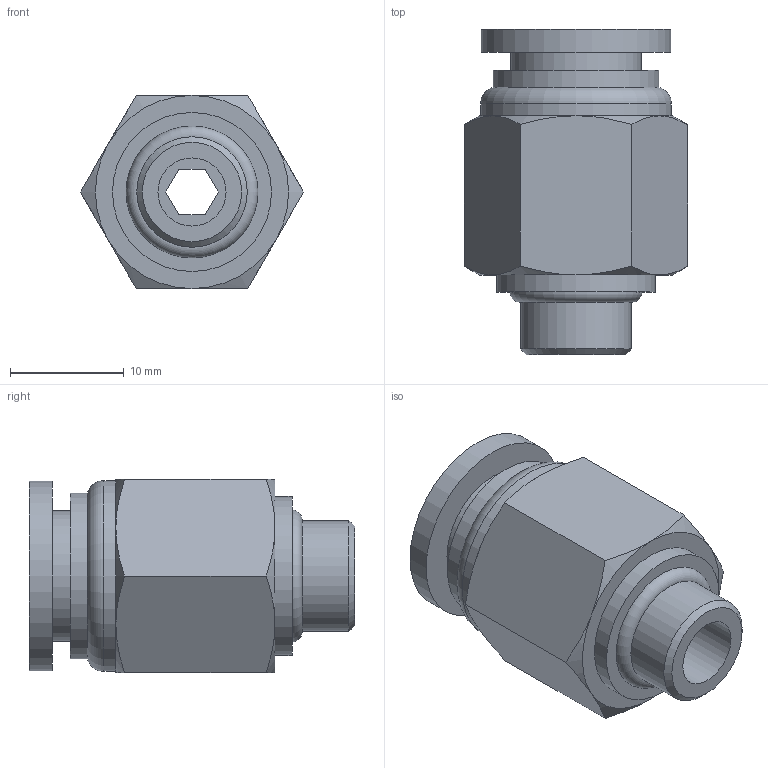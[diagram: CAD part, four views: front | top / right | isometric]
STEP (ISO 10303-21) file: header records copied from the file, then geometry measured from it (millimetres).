
FILE_DESCRIPTION(/* description */ (''),/* implementation_level */ '2;1');
FILE_NAME(/* name */ 'S:\_Tecnico\ArchivioUT\_Disegni3D ingombri\DISEGNI 3D per ingombri\RP\RP 51\RP511810.stp',/* time_stamp */ '2019-07-25T09:38:24+02:00',/* author */ ('ufficiotecnico3'),/* organization */ (''),/* preprocessor_version */ 'ST-DEVELOPER v18',/* originating_system */ 'Autodesk Inventor 2020',/* authorisation */ '');
FILE_SCHEMA (('AUTOMOTIVE_DESIGN { 1 0 10303 214 3 1 1 }'));
Length unit declared in the file: millimetre
Products named in the file (1): RP511810
Bounding box: 19.63 x 28.6 x 17 mm (x, y, z)
Volume: 3766.4 mm3; surface area: 2817.1 mm2
Topology: 1 solids, 1 shells, 45 faces, 105 edges, 69 vertices
Faces by surface type: plane 21, cone 14, cylinder 8, torus 2
Full cylindrical faces by diameter (mm): 6 x1, 9.728 x1, 10 x1, 11.5 x1, 14 x1, 14.6 x1, 16.7 x1, 16.8 x1
Entity records: 1323 total; most frequent: CARTESIAN_POINT 268, DIRECTION 220, ORIENTED_EDGE 210, EDGE_CURVE 105, AXIS2_PLACEMENT_3D 93, VERTEX_POINT 69, EDGE_LOOP 54, CIRCLE 47
